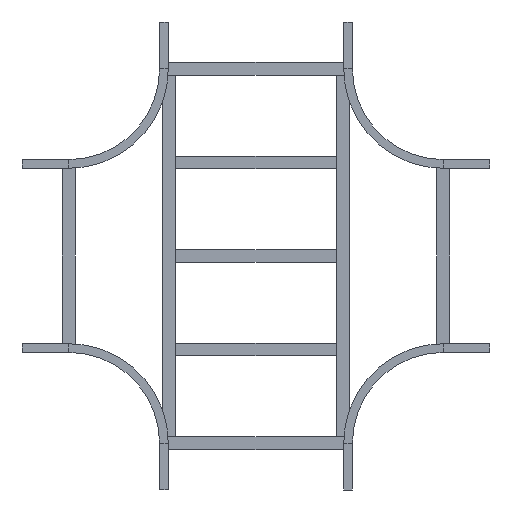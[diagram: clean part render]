
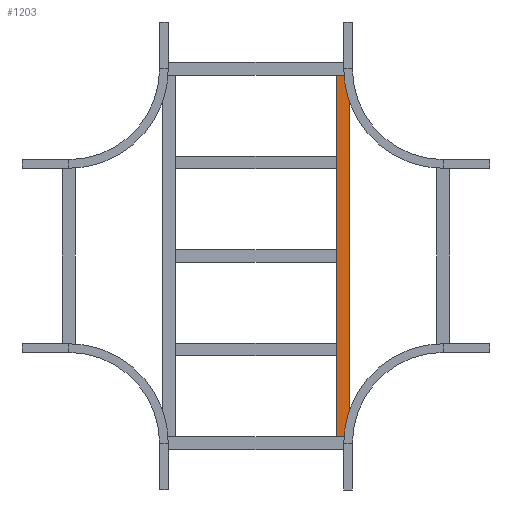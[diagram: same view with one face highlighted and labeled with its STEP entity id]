
A CAD part, front view. The second image highlights one B-rep face of the part: STEP entity #1203.
In plain terms, the highlighted planar face has unit normal (0, -1, 0).
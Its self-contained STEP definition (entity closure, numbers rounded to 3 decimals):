
#90 = DIRECTION ( 'NONE',  ( 0., 1., 0. ) ) ;
#133 = DIRECTION ( 'NONE',  ( -1., 0., 0. ) ) ;
#143 = VECTOR ( 'NONE', #2310, 1000. ) ;
#380 = LINE ( 'NONE', #1241, #732 ) ;
#522 = CARTESIAN_POINT ( 'NONE',  ( 579.75, 0., 20.25 ) ) ;
#548 = LINE ( 'NONE', #2074, #2328 ) ;
#563 = VERTEX_POINT ( 'NONE', #1872 ) ;
#582 = LINE ( 'NONE', #760, #143 ) ;
#674 = CARTESIAN_POINT ( 'NONE',  ( -579.75, 0., -20.25 ) ) ;
#728 = ORIENTED_EDGE ( 'NONE', *, *, #1290, .F. ) ;
#732 = VECTOR ( 'NONE', #1533, 1000. ) ;
#760 = CARTESIAN_POINT ( 'NONE',  ( 579.75, 0., 20.25 ) ) ;
#884 = DIRECTION ( 'NONE',  ( 0., 0., -1. ) ) ;
#953 = VERTEX_POINT ( 'NONE', #2632 ) ;
#1110 = LINE ( 'NONE', #2653, #2232 ) ;
#1166 = EDGE_CURVE ( 'NONE', #563, #1735, #1110, .T. ) ;
#1203 = ADVANCED_FACE ( 'NONE', ( #1825 ), #2498, .F. ) ;
#1221 = CARTESIAN_POINT ( 'NONE',  ( 579.75, 0., -20.25 ) ) ;
#1241 = CARTESIAN_POINT ( 'NONE',  ( 579.75, 0., -20.25 ) ) ;
#1290 = EDGE_CURVE ( 'NONE', #953, #1300, #582, .T. ) ;
#1300 = VERTEX_POINT ( 'NONE', #1221 ) ;
#1379 = EDGE_CURVE ( 'NONE', #1300, #1735, #380, .T. ) ;
#1383 = DIRECTION ( 'NONE',  ( 0., 0., 1. ) ) ;
#1533 = DIRECTION ( 'NONE',  ( -1., 0., 0. ) ) ;
#1735 = VERTEX_POINT ( 'NONE', #674 ) ;
#1772 = AXIS2_PLACEMENT_3D ( 'NONE', #522, #90, #1383 ) ;
#1825 = FACE_OUTER_BOUND ( 'NONE', #2621, .T. ) ;
#1872 = CARTESIAN_POINT ( 'NONE',  ( -579.75, 0., 20.25 ) ) ;
#1999 = ORIENTED_EDGE ( 'NONE', *, *, #1379, .F. ) ;
#2008 = EDGE_CURVE ( 'NONE', #953, #563, #548, .T. ) ;
#2074 = CARTESIAN_POINT ( 'NONE',  ( 579.75, 0., 20.25 ) ) ;
#2232 = VECTOR ( 'NONE', #884, 1000. ) ;
#2310 = DIRECTION ( 'NONE',  ( 0., 0., -1. ) ) ;
#2328 = VECTOR ( 'NONE', #133, 1000. ) ;
#2488 = ORIENTED_EDGE ( 'NONE', *, *, #1166, .T. ) ;
#2498 = PLANE ( 'NONE',  #1772 ) ;
#2621 = EDGE_LOOP ( 'NONE', ( #2488, #1999, #728, #2642 ) ) ;
#2632 = CARTESIAN_POINT ( 'NONE',  ( 579.75, 0., 20.25 ) ) ;
#2642 = ORIENTED_EDGE ( 'NONE', *, *, #2008, .T. ) ;
#2653 = CARTESIAN_POINT ( 'NONE',  ( -579.75, 0., 20.25 ) ) ;
